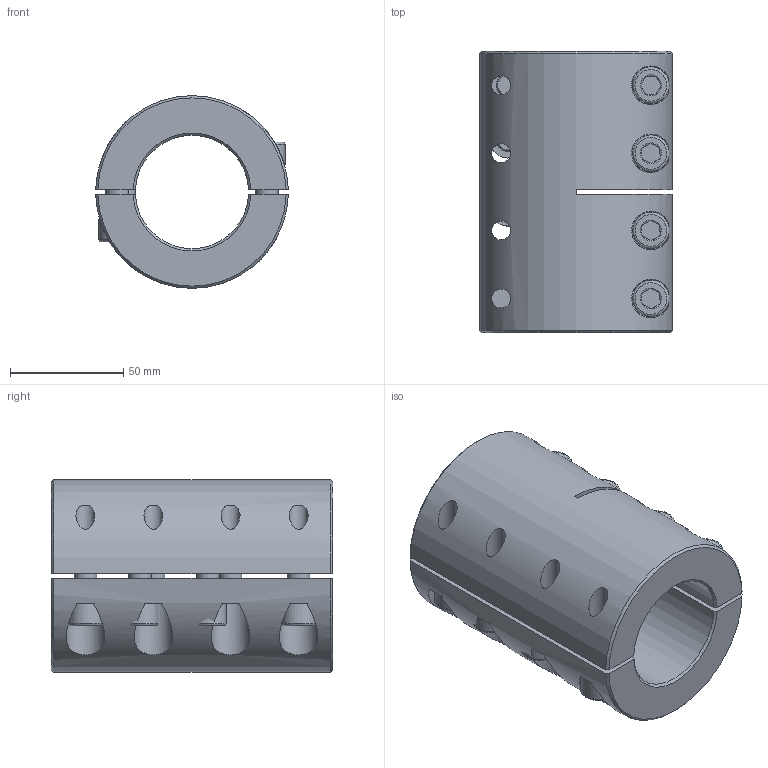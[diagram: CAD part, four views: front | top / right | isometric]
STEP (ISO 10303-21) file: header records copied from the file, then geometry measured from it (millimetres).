
FILE_DESCRIPTION( ( 'Unknown' ), '1' );
FILE_NAME( 'K:/Konstruktion/Fertigungszeichnungen/Schalenkupplung/KBST-G/KBST-G-50.stp', 'Unknown', ( 'Unknown' ), ( 'Unknown' ), 'PSStep 16.0.42', 'Unknown', ' ' );
FILE_SCHEMA( ( 'AUTOMOTIVE_DESIGN { 1 0 10303 214 1 1 1 1 }' ) );
Length unit declared in the file: millimetre
Products named in the file (4): Assem1; KBST-G-50; ISO EN DIN 4762 M10x25
Assembly tree (10 placements, depth 2):
  Assem1
    KBST-G-50
    KBST-G-50
    ISO EN DIN 4762 M10x25  x8
Bounding box: 84.98 x 124 x 85 mm (x, y, z)
Volume: 432862.2 mm3; surface area: 94742.2 mm2
Topology: 10 solids, 10 shells, 260 faces, 492 edges, 292 vertices
Faces by surface type: plane 120, cone 64, cylinder 60, torus 16
Full cylindrical faces by diameter (mm): 8.376 x8, 9 x8, 10 x16, 10.5 x8, 16 x8
Entity records: 4266 total; most frequent: CARTESIAN_POINT 1632, DIRECTION 390, ORIENTED_EDGE 326, AXIS2_PLACEMENT_3D 169, EDGE_CURVE 163, EDGE_LOOP 152, VERTEX_POINT 119, FACE_OUTER_BOUND 107
